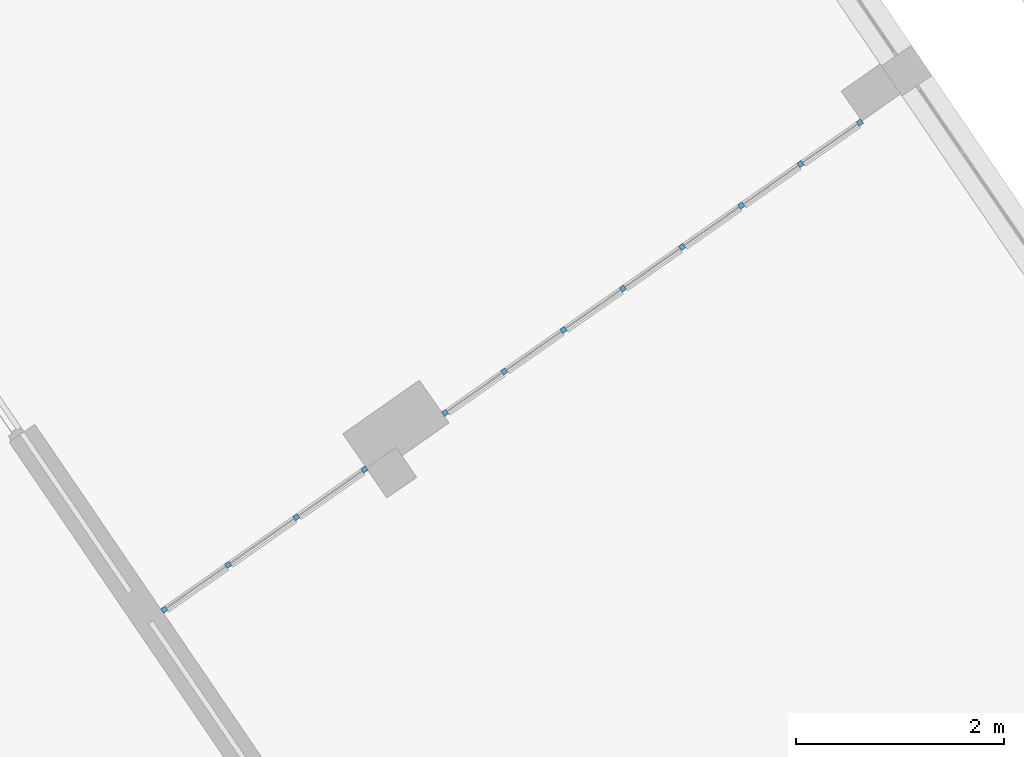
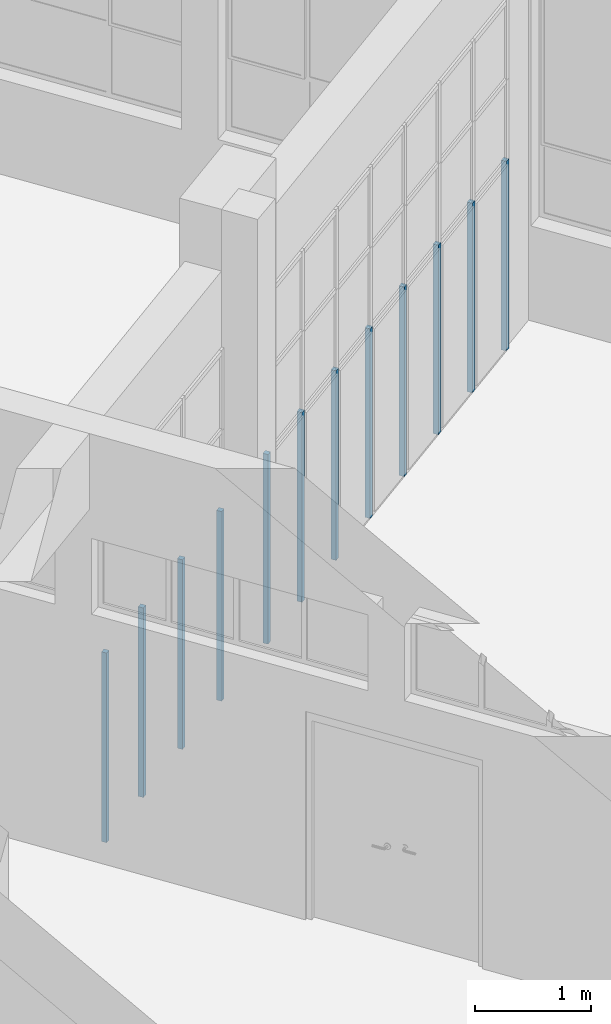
# One storey, part 25 of 157: 12 members, 2 elements without a shape of their own.
"""IFC2X3 building model written with IfcOpenShell, lengths in millimetres."""

from ifc_helpers import new_model, entity, si_unit, converted_unit, derived_unit, direction, frame, origin, origin_2d_with_axis, place, context, subcontext, project, spatial, rectangle, extrude, source, transform, mapped, material, type_object, type_shapes, element, aggregate, save


model = new_model("IFC2X3")

# Units and contexts
model_context = context("Model", 3, precision=0.01, world=origin(), true_north=direction((6.123031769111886e-17, 1.0)))
body_context = subcontext(model_context, "Body", "Model", "MODEL_VIEW")
ifc_project = project(units=[si_unit("LENGTHUNIT", "METRE", prefix="MILLI"), si_unit("AREAUNIT", "SQUARE_METRE"), si_unit("VOLUMEUNIT", "CUBIC_METRE"), converted_unit("PLANEANGLEUNIT", "DEGREE", entity("IfcRatioMeasure", 0.017453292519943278), si_unit("PLANEANGLEUNIT", "RADIAN"), dimensions=[0, 0, 0, 0, 0, 0, 0]), si_unit("MASSUNIT", "GRAM", prefix="KILO"), derived_unit("MASSDENSITYUNIT", [(si_unit("MASSUNIT", "GRAM", prefix="KILO"), 1), (si_unit("LENGTHUNIT", "METRE"), -3)]), derived_unit("MOMENTOFINERTIAUNIT", [(si_unit("LENGTHUNIT", "METRE"), 4)]), si_unit("TIMEUNIT", "SECOND"), si_unit("FREQUENCYUNIT", "HERTZ"), si_unit("THERMODYNAMICTEMPERATUREUNIT", "DEGREE_CELSIUS"), derived_unit("THERMALTRANSMITTANCEUNIT", [(si_unit("MASSUNIT", "GRAM", prefix="KILO"), 1), (si_unit("THERMODYNAMICTEMPERATUREUNIT", "KELVIN"), -1), (si_unit("TIMEUNIT", "SECOND"), -3)]), derived_unit("THERMALCONDUCTANCEUNIT", [(si_unit("MASSUNIT", "GRAM", prefix="KILO"), 1), (si_unit("LENGTHUNIT", "METRE"), 1), (si_unit("THERMODYNAMICTEMPERATUREUNIT", "KELVIN"), -1), (si_unit("TIMEUNIT", "SECOND"), -3)]), derived_unit("VOLUMETRICFLOWRATEUNIT", [(si_unit("LENGTHUNIT", "METRE"), 3), (si_unit("TIMEUNIT", "SECOND"), -1)]), derived_unit("MASSFLOWRATEUNIT", [(si_unit("MASSUNIT", "GRAM", prefix="KILO"), 1), (si_unit("TIMEUNIT", "SECOND"), -1)]), derived_unit("ROTATIONALFREQUENCYUNIT", [(si_unit("TIMEUNIT", "SECOND"), -1)]), si_unit("ELECTRICCURRENTUNIT", "AMPERE"), si_unit("ELECTRICVOLTAGEUNIT", "VOLT"), si_unit("POWERUNIT", "WATT"), converted_unit("FORCEUNIT", "KIP", entity("IfcRatioMeasure", 2.088543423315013e-05), si_unit("FORCEUNIT", "NEWTON"), dimensions=[1, 1, -2, 0, 0, 0, 0]), si_unit("ILLUMINANCEUNIT", "LUX"), si_unit("LUMINOUSFLUXUNIT", "LUMEN"), si_unit("LUMINOUSINTENSITYUNIT", "CANDELA"), derived_unit("USERDEFINED", [(si_unit("MASSUNIT", "GRAM", prefix="KILO"), -1), (si_unit("LENGTHUNIT", "METRE"), -2), (si_unit("TIMEUNIT", "SECOND"), 3), (si_unit("LUMINOUSFLUXUNIT", "LUMEN"), 1)]), derived_unit("USERDEFINED", [(si_unit("MASSUNIT", "GRAM", prefix="KILO"), 1), (si_unit("LENGTHUNIT", "METRE"), 3), (si_unit("TIMEUNIT", "SECOND"), -3), (si_unit("ELECTRICCURRENTUNIT", "AMPERE"), -2)]), derived_unit("USERDEFINED", [(si_unit("LENGTHUNIT", "METRE"), 2), (si_unit("TIMEUNIT", "SECOND"), -2)]), derived_unit("SOUNDPOWERUNIT", [(si_unit("MASSUNIT", "GRAM", prefix="KILO"), 1), (si_unit("LENGTHUNIT", "METRE"), 2), (si_unit("TIMEUNIT", "SECOND"), -3)]), derived_unit("SOUNDPRESSUREUNIT", [(si_unit("MASSUNIT", "GRAM", prefix="KILO"), 1), (si_unit("LENGTHUNIT", "METRE"), -1), (si_unit("TIMEUNIT", "SECOND"), -2)]), derived_unit("LINEARVELOCITYUNIT", [(si_unit("LENGTHUNIT", "METRE"), 1), (si_unit("TIMEUNIT", "SECOND"), -1)]), si_unit("PRESSUREUNIT", "PASCAL"), derived_unit("USERDEFINED", [(si_unit("LENGTHUNIT", "METRE"), -2), (si_unit("MASSUNIT", "GRAM", prefix="KILO"), 1), (si_unit("TIMEUNIT", "SECOND"), -2)]), derived_unit("LINEARFORCEUNIT", [(si_unit("MASSUNIT", "GRAM", prefix="KILO"), 1), (si_unit("LENGTHUNIT", "METRE"), 1), (si_unit("TIMEUNIT", "SECOND"), -2), (si_unit("LENGTHUNIT", "METRE"), -1)]), derived_unit("PLANARFORCEUNIT", [(si_unit("MASSUNIT", "GRAM", prefix="KILO"), 1), (si_unit("LENGTHUNIT", "METRE"), 1), (si_unit("TIMEUNIT", "SECOND"), -2), (si_unit("LENGTHUNIT", "METRE"), -2)]), derived_unit("SPECIFICHEATCAPACITYUNIT", [(si_unit("LENGTHUNIT", "METRE"), 2), (si_unit("TIMEUNIT", "SECOND"), -2), (si_unit("THERMODYNAMICTEMPERATUREUNIT", "KELVIN"), -1)]), derived_unit("VAPORPERMEABILITYUNIT", [(si_unit("TIMEUNIT", "SECOND"), 1), (si_unit("LENGTHUNIT", "METRE"), -1)]), derived_unit("DYNAMICVISCOSITYUNIT", [(si_unit("MASSUNIT", "GRAM", prefix="KILO"), 1), (si_unit("LENGTHUNIT", "METRE"), -1), (si_unit("TIMEUNIT", "SECOND"), -1)]), derived_unit("THERMALEXPANSIONCOEFFICIENTUNIT", [(si_unit("THERMODYNAMICTEMPERATUREUNIT", "KELVIN"), -1)])], contexts=[model_context])

# Site, building, storey
site_placement = place(None, frame((0.0, 0.0, 0.0), z_axis=(0.0, 0.0, 1.0), x_axis=(0.8191520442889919, 0.5735764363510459, 0.0)))
site = spatial("IfcSite", under=ifc_project, at=site_placement, Name="Default", CompositionType="ELEMENT")
building_placement = place(site_placement, origin())
building = spatial("IfcBuilding", under=site, at=building_placement, CompositionType="ELEMENT")
storey_placement = place(building_placement, origin())
storey = spatial("IfcBuildingStorey", under=building, at=storey_placement, Name="1.EG +0.00", CompositionType="ELEMENT", Elevation=-4.331468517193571e-12)

# Curtain wall, members
curtain_wall_type = type_object("IfcCurtainWallType", Name="Curtain Wall:Curtain_Wall_CJC_Int5", PredefinedType="NOTDEFINED")
curtain_wall_1_placement = place(storey_placement, origin())
curtain_wall_1 = element("IfcCurtainWall", 1, at=curtain_wall_1_placement, inside=storey, type_object=curtain_wall_type, Name="Curtain Wall:Curtain_Wall_CJC_Int5", ObjectType="Curtain Wall:Curtain_Wall_CJC_Int5")
ifc_material = material(Name="Aluminium")
member_type_1 = type_object("IfcMemberType", Name="Rectangular Mullion:5x5", PredefinedType="MULLION", material=ifc_material)
shared_shape_1 = source(origin(), body_context, "Body", "SweptSolid", [
    extrude(rectangle(XDim=50.000000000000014, YDim=50.0, at=origin_2d_with_axis()), frame((-25.0, 0.0, -2000.0), z_axis=(0.0, 0.0, 1.0), x_axis=(0.0, -1.0, 0.0)), (0.0, 0.0, 1.0), 2000.0000000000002),
])
type_shapes(member_type_1, [shared_shape_1])
member_1_placement = place(curtain_wall_1_placement, frame((-206013.94309779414, 79246.35891435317, 0.0), z_axis=(0.0, 0.0, -1.0), x_axis=(1.0, 0.0, 0.0)))
member_1 = element("IfcMember", 2, at=member_1_placement, type_object=member_type_1, material=ifc_material, Name="Rectangular Mullion:5x5", ObjectType="Rectangular Mullion:5x5", context=body_context, shape_type="MappedRepresentation", body=[
    mapped(shared_shape_1, transform((0.0, 0.0, 0.0), scale=1.0)),
])
member_type_2 = type_object("IfcMemberType", Name="Rectangular Mullion:5x5", PredefinedType="MULLION", material=ifc_material)
shared_shape_2 = source(origin(), body_context, "Body", "SweptSolid", [
    extrude(rectangle(XDim=50.0, YDim=50.0, at=origin_2d_with_axis()), frame((-25.0, 0.0, -2000.0), z_axis=(0.0, 0.0, 1.0), x_axis=(0.0, -1.0, 0.0)), (0.0, 0.0, 1.0), 2000.0000000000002),
])
type_shapes(member_type_2, [shared_shape_2])
member_2_placement = place(curtain_wall_1_placement, frame((-210936.61448951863, 79246.35891435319, 2000.0), z_axis=(0.0, 0.0, 1.0), x_axis=(-1.0, 0.0, 0.0)))
member_2 = element("IfcMember", 3, at=member_2_placement, type_object=member_type_2, material=ifc_material, Name="Rectangular Mullion:5x5", ObjectType="Rectangular Mullion:5x5", context=body_context, shape_type="MappedRepresentation", body=[
    mapped(shared_shape_2, transform((0.0, 0.0, 0.0), scale=1.0)),
])
member_type_3 = type_object("IfcMemberType", Name="Rectangular Mullion:5x5", PredefinedType="MULLION", material=ifc_material)
shared_shape_3 = source(origin(), body_context, "Body", "SweptSolid", [
    extrude(rectangle(XDim=50.0, YDim=50.0, at=origin_2d_with_axis()), frame((0.0, 0.0, -2000.0), z_axis=(0.0, 0.0, 1.0), x_axis=(0.0, -1.0, 0.0)), (0.0, 0.0, 1.0), 2000.0000000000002),
])
type_shapes(member_type_3, [shared_shape_3])
member_3_placement = place(curtain_wall_1_placement, frame((-208823.3267501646, 79246.35891435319, 0.0), z_axis=(0.0, 0.0, -1.0), x_axis=(1.0, 0.0, 0.0)))
member_3 = element("IfcMember", 4, at=member_3_placement, type_object=member_type_3, material=ifc_material, Name="Rectangular Mullion:5x5", ObjectType="Rectangular Mullion:5x5", context=body_context, shape_type="MappedRepresentation", body=[
    mapped(shared_shape_3, transform((0.0, 0.0, 0.0), scale=1.0)),
])
member_4_placement = place(curtain_wall_1_placement, frame((-208127.23083714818, 79246.35891435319, 0.0), z_axis=(0.0, 0.0, -1.0), x_axis=(1.0, 0.0, 0.0)))
member_4 = element("IfcMember", 5, at=member_4_placement, type_object=member_type_3, material=ifc_material, Name="Rectangular Mullion:5x5", ObjectType="Rectangular Mullion:5x5", context=body_context, shape_type="MappedRepresentation", body=[
    mapped(shared_shape_3, transform((0.0, 0.0, 0.0), scale=1.0)),
])
member_5_placement = place(curtain_wall_1_placement, frame((-207431.13492413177, 79246.35891435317, 0.0), z_axis=(0.0, 0.0, -1.0), x_axis=(1.0, 0.0, 0.0)))
member_5 = element("IfcMember", 6, at=member_5_placement, type_object=member_type_3, material=ifc_material, Name="Rectangular Mullion:5x5", ObjectType="Rectangular Mullion:5x5", context=body_context, shape_type="MappedRepresentation", body=[
    mapped(shared_shape_3, transform((0.0, 0.0, 0.0), scale=1.0)),
])
member_6_placement = place(curtain_wall_1_placement, frame((-206735.03901111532, 79246.35891435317, 0.0), z_axis=(0.0, 0.0, -1.0), x_axis=(1.0, 0.0, 0.0)))
member_6 = element("IfcMember", 7, at=member_6_placement, type_object=member_type_3, material=ifc_material, Name="Rectangular Mullion:5x5", ObjectType="Rectangular Mullion:5x5", context=body_context, shape_type="MappedRepresentation", body=[
    mapped(shared_shape_3, transform((0.0, 0.0, 0.0), scale=1.0)),
])
member_7_placement = place(curtain_wall_1_placement, frame((-209519.422663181, 79246.35891435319, 0.0), z_axis=(0.0, 0.0, -1.0), x_axis=(1.0, 0.0, 0.0)))
member_7 = element("IfcMember", 8, at=member_7_placement, type_object=member_type_3, material=ifc_material, Name="Rectangular Mullion:5x5", ObjectType="Rectangular Mullion:5x5", context=body_context, shape_type="MappedRepresentation", body=[
    mapped(shared_shape_3, transform((0.0, 0.0, 0.0), scale=1.0)),
])
member_8_placement = place(curtain_wall_1_placement, frame((-210215.5185761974, 79246.35891435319, 0.0), z_axis=(0.0, 0.0, -1.0), x_axis=(1.0, 0.0, 0.0)))
member_8 = element("IfcMember", 9, at=member_8_placement, type_object=member_type_3, material=ifc_material, Name="Rectangular Mullion:5x5", ObjectType="Rectangular Mullion:5x5", context=body_context, shape_type="MappedRepresentation", body=[
    mapped(shared_shape_3, transform((0.0, 0.0, 0.0), scale=1.0)),
])
aggregate(curtain_wall_1, [member_1, member_2, member_3, member_4, member_5, member_6, member_7, member_8])

curtain_wall_2_placement = place(storey_placement, origin())
curtain_wall_2 = element("IfcCurtainWall", 10, at=curtain_wall_2_placement, inside=storey, type_object=curtain_wall_type, Name="Curtain Wall:Curtain_Wall_CJC_Int5", ObjectType="Curtain Wall:Curtain_Wall_CJC_Int5")
member_type_4 = type_object("IfcMemberType", Name="Rectangular Mullion:5x5", PredefinedType="MULLION", material=ifc_material)
shared_shape_4 = source(origin(), body_context, "Body", "SweptSolid", [
    extrude(rectangle(XDim=50.0, YDim=50.0, at=origin_2d_with_axis()), frame((-25.0, 0.0, -2000.0), z_axis=(0.0, 0.0, 1.0), x_axis=(0.0, -1.0, 0.0)), (0.0, 0.0, 1.0), 2000.0000000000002),
])
type_shapes(member_type_4, [shared_shape_4])
member_9_placement = place(curtain_wall_2_placement, frame((-214236.56981545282, 79245.87276745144, 0.0), z_axis=(0.0, 0.0, -1.0), x_axis=(-1.0, 0.0, 0.0)))
member_9 = element("IfcMember", 11, at=member_9_placement, type_object=member_type_4, material=ifc_material, Name="Rectangular Mullion:5x5", ObjectType="Rectangular Mullion:5x5", context=body_context, shape_type="MappedRepresentation", body=[
    mapped(shared_shape_4, transform((0.0, 0.0, 0.0), scale=1.0)),
])
member_type_5 = type_object("IfcMemberType", Name="Rectangular Mullion:5x5", PredefinedType="MULLION", material=ifc_material)
shared_shape_5 = source(origin(), body_context, "Body", "SweptSolid", [
    extrude(rectangle(XDim=50.0, YDim=50.0, at=origin_2d_with_axis()), frame((-25.0, 0.0, -2000.0), z_axis=(0.0, 0.0, 1.0), x_axis=(0.0, -1.0, 0.0)), (0.0, 0.0, 1.0), 2000.0000000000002),
])
type_shapes(member_type_5, [shared_shape_5])
member_10_placement = place(curtain_wall_2_placement, frame((-211834.42928408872, 79245.87276745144, 2000.0)))
member_10 = element("IfcMember", 12, at=member_10_placement, type_object=member_type_5, material=ifc_material, Name="Rectangular Mullion:5x5", ObjectType="Rectangular Mullion:5x5", context=body_context, shape_type="MappedRepresentation", body=[
    mapped(shared_shape_5, transform((0.0, 0.0, 0.0), scale=1.0)),
])
member_type_6 = type_object("IfcMemberType", Name="Rectangular Mullion:5x5", PredefinedType="MULLION", material=ifc_material)
shared_shape_6 = source(origin(), body_context, "Body", "SweptSolid", [
    extrude(rectangle(XDim=50.0, YDim=50.0, at=origin_2d_with_axis()), frame((0.0, 0.0, -2000.0), z_axis=(0.0, 0.0, 1.0), x_axis=(0.0, -1.0, 0.0)), (0.0, 0.0, 1.0), 2000.0000000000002),
])
type_shapes(member_type_6, [shared_shape_6])
member_11_placement = place(curtain_wall_2_placement, frame((-212660.14279464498, 79245.87276745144, 0.0), z_axis=(0.0, 0.0, -1.0), x_axis=(-1.0, 0.0, 0.0)))
member_11 = element("IfcMember", 13, at=member_11_placement, type_object=member_type_6, material=ifc_material, Name="Rectangular Mullion:5x5", ObjectType="Rectangular Mullion:5x5", context=body_context, shape_type="MappedRepresentation", body=[
    mapped(shared_shape_6, transform((0.0, 0.0, 0.0), scale=1.0)),
])
member_12_placement = place(curtain_wall_2_placement, frame((-213460.85630489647, 79245.87276745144, 0.0), z_axis=(0.0, 0.0, -1.0), x_axis=(-1.0, 0.0, 0.0)))
member_12 = element("IfcMember", 14, at=member_12_placement, type_object=member_type_6, material=ifc_material, Name="Rectangular Mullion:5x5", ObjectType="Rectangular Mullion:5x5", context=body_context, shape_type="MappedRepresentation", body=[
    mapped(shared_shape_6, transform((0.0, 0.0, 0.0), scale=1.0)),
])
aggregate(curtain_wall_2, [member_9, member_10, member_11, member_12])

save(model, "model.ifc")
